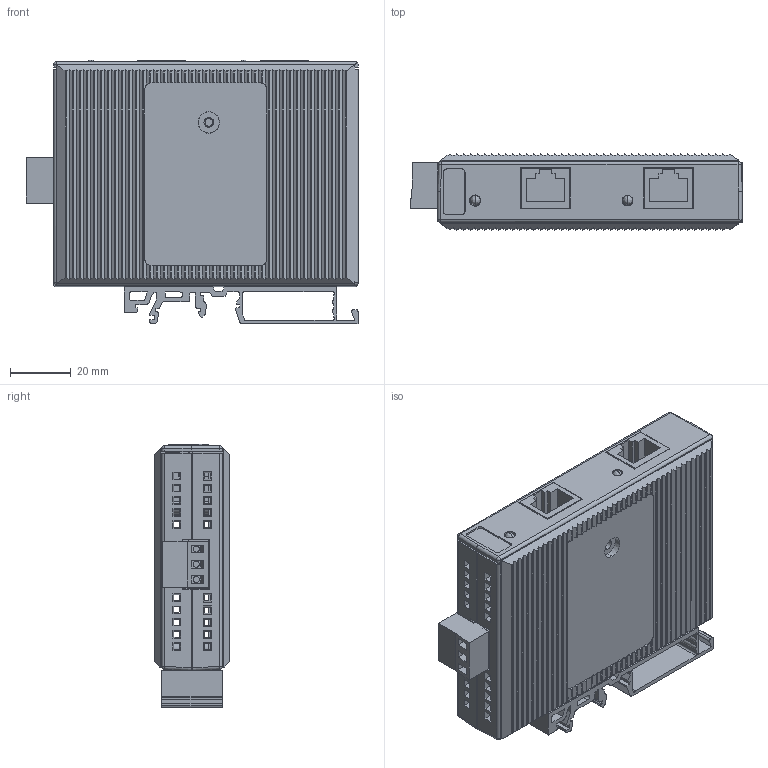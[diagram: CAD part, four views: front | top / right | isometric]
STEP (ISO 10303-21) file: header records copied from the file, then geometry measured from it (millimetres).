
FILE_DESCRIPTION((''),'2;1');
FILE_NAME('INJ_24_ASM','2013-06-17T',('Vincent_Huang'),(''),'PRO/ENGINEER BY PARAMETRIC TECHNOLOGY CORPORATION, 2004320','PRO/ENGINEER BY PARAMETRIC TECHNOLOGY CORPORATION, 2004320','');
FILE_SCHEMA(('CONFIG_CONTROL_DESIGN'));
Length unit declared in the file: millimetre
Products named in the file (13): INJ_24_PCB; 1126005081000_RJ45_E5J88_8P8C_; 1106999996800_LED_YELLOW3MM_DIP; 1111000002200_TERMINAL_M_3P; 1111000002500_TERMINAL_FM_3P; INJ_24_PCB_ASM_ASM; INJ_24_BOTTOM; INJ_24_TOP; SP-01-0040A001; AL; PAD; PAD1; INJ_24_ASM
Assembly tree (14 placements, depth 3):
  INJ_24_ASM
    INJ_24_PCB_ASM_ASM
      INJ_24_PCB
      1126005081000_RJ45_E5J88_8P8C_  x2
      1106999996800_LED_YELLOW3MM_DIP  x2
      1111000002200_TERMINAL_M_3P
      1111000002500_TERMINAL_FM_3P
    INJ_24_BOTTOM
    INJ_24_TOP
    SP-01-0040A001
    AL
    PAD
    PAD1
Bounding box: 109.05 x 24.87 x 86.71 mm (x, y, z)
Volume: 72086.1 mm3; surface area: 92334 mm2
Topology: 13 solids, 15 shells, 1454 faces, 3992 edges, 2613 vertices
Faces by surface type: plane 1081, cylinder 323, cone 28, bspline 9, sphere 7, torus 6
Entity records: 44746 total; most frequent: CARTESIAN_POINT 9111, ORIENTED_EDGE 7643, DIRECTION 6749, EDGE_CURVE 3830, VECTOR 3083, LINE 3083, VERTEX_POINT 2507, AXIS2_PLACEMENT_3D 1833
